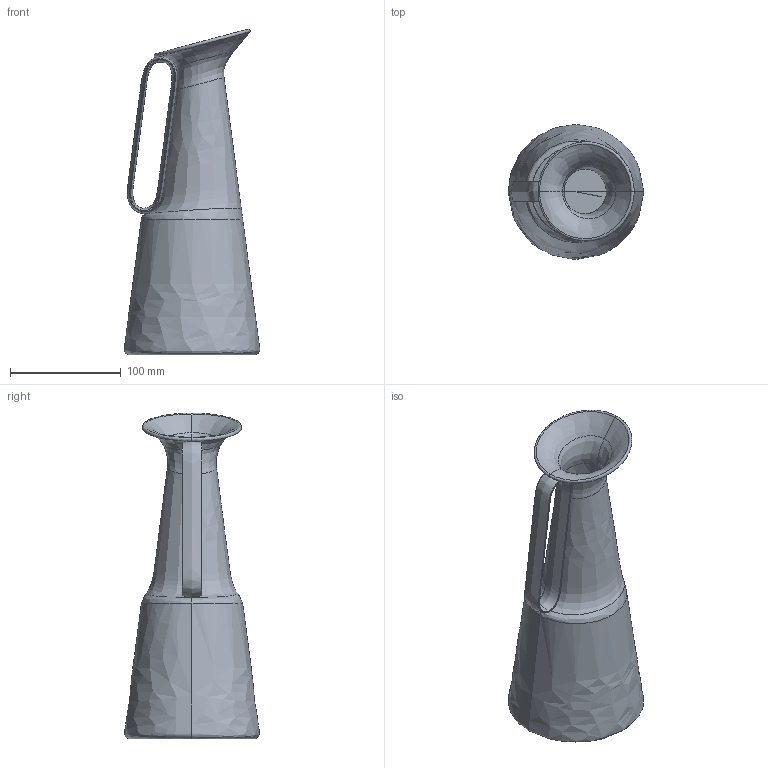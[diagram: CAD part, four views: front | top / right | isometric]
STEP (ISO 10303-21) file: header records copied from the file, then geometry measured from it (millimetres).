
FILE_DESCRIPTION(/* description */ (''),/* implementation_level */ '2;1');
FILE_NAME(/* name */ 'Sula',/* time_stamp */ '2025-07-11T09:45:36+02:00',/* author */ (''),/* organization */ (''),/* preprocessor_version */ 'ST-DEVELOPER v16.5',/* originating_system */ 'Rhino 7.37',/* authorisation */ '');
FILE_SCHEMA (('AUTOMOTIVE_DESIGN'));
Length unit declared in the file: millimetre
Products named in the file (1): Document
Bounding box: 122.18 x 121.81 x 293.63 mm (x, y, z)
Volume: 120617.5 mm3; surface area: 182625.5 mm2
Topology: 2 solids, 2 shells, 38 faces, 86 edges, 46 vertices
Faces by surface type: bspline 34, plane 4
Entity records: 16188 total; most frequent: CARTESIAN_POINT 15655, ORIENTED_EDGE 164, EDGE_CURVE 82, B_SPLINE_CURVE_WITH_KNOTS 52, VERTEX_POINT 46, ADVANCED_FACE 38, FACE_OUTER_BOUND 38, EDGE_LOOP 38
